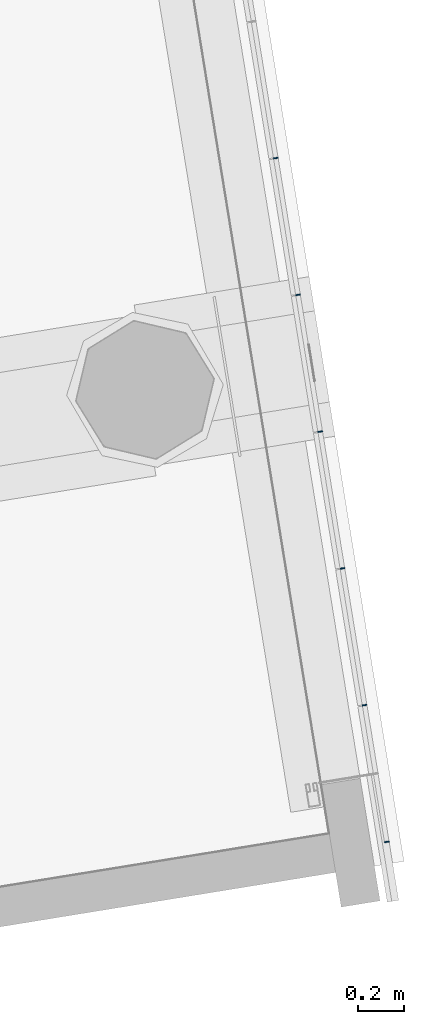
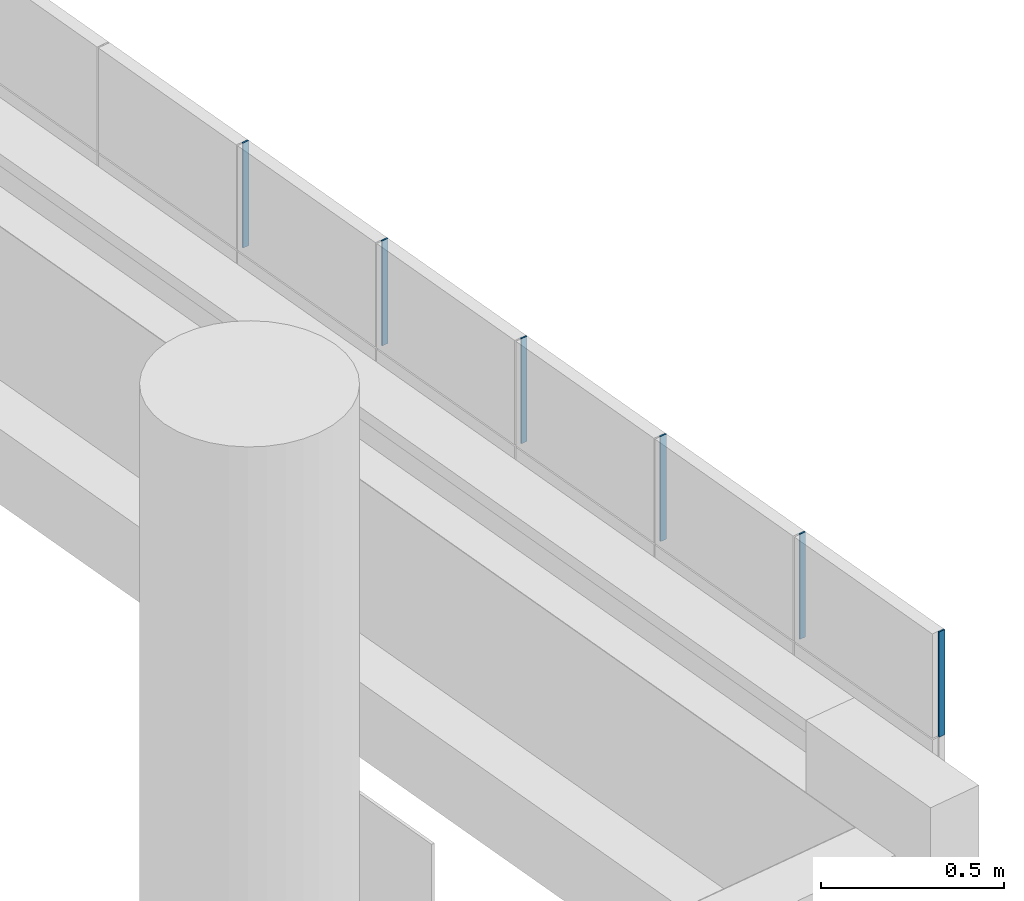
# One storey, part 22 of 38: 6 members, 1 element without a shape of its own.
"""IFC2X3 building model written with IfcOpenShell, lengths in millimetres."""

from ifc_helpers import new_model, entity, si_unit, converted_unit, derived_unit, direction, frame, origin, origin_with_axes, place, context, subcontext, project, spatial, faceted_brep, material, type_object, element, aggregate, save


model = new_model("IFC2X3")

# Units and contexts
model_context = context("Model", 3, precision=0.01, world=origin(), true_north=direction((6.12323399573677e-17, 1.0)))
plan_context = context("Plan", 3, precision=1e-05, world=origin_with_axes())
body_context = subcontext(model_context, "Body", "Model", "MODEL_VIEW")
ifc_project = project(units=[converted_unit("PLANEANGLEUNIT", "DEGREE", entity("IfcPositiveLengthMeasure", 0.0174532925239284), si_unit("PLANEANGLEUNIT", "RADIAN"), dimensions=[0, 0, 0, 0, 0, 0, 0]), si_unit("AREAUNIT", "SQUARE_METRE"), si_unit("LENGTHUNIT", "METRE", prefix="MILLI"), si_unit("MASSUNIT", "GRAM", prefix="KILO"), si_unit("POWERUNIT", "WATT"), si_unit("PRESSUREUNIT", "PASCAL", prefix="KILO"), si_unit("FORCEUNIT", "NEWTON", prefix="KILO"), si_unit("ELECTRICVOLTAGEUNIT", "VOLT"), si_unit("ELECTRICCURRENTUNIT", "AMPERE"), si_unit("THERMODYNAMICTEMPERATUREUNIT", "DEGREE_CELSIUS"), si_unit("TIMEUNIT", "SECOND"), si_unit("VOLUMEUNIT", "CUBIC_METRE"), derived_unit("LINEARVELOCITYUNIT", [(si_unit("LENGTHUNIT", "METRE"), 1), (si_unit("TIMEUNIT", "SECOND"), -1)]), derived_unit("VOLUMETRICFLOWRATEUNIT", [(si_unit("VOLUMEUNIT", "CUBIC_METRE"), 1), (si_unit("TIMEUNIT", "SECOND"), -1)]), derived_unit("THERMALTRANSMITTANCEUNIT", [(si_unit("POWERUNIT", "WATT"), 1), (si_unit("THERMODYNAMICTEMPERATUREUNIT", "KELVIN"), -1), (si_unit("AREAUNIT", "SQUARE_METRE"), -1)]), derived_unit("SOUNDPRESSUREUNIT", [(si_unit("PRESSUREUNIT", "PASCAL"), 1)])], contexts=[model_context, plan_context])

# Site, building, storey
site_placement = place(None, frame((-0.00071070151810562, 0.00438415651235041, 0.0), z_axis=(0.0, 0.0, 1.0), x_axis=(-0.160236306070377, 0.987078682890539, 0.0)))
site = spatial("IfcSite", under=ifc_project, at=site_placement, Name="Default", CompositionType="ELEMENT")
building_placement = place(site_placement, origin_with_axes())
building = spatial("IfcBuilding", under=site, at=building_placement, Name="TOO", CompositionType="ELEMENT")
storey_placement = place(building_placement, frame((0.0, 0.0, 50999.9999999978), z_axis=(0.0, 0.0, 1.0), x_axis=(1.0, 0.0, 0.0)))
storey = spatial("IfcBuildingStorey", under=building, at=storey_placement, Name="Nivå D-H01", CompositionType="ELEMENT", Elevation=50999.9999999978)

# Curtain wall, members
curtain_wall_type = type_object("IfcCurtainWallType", Name="Curtain Wall:Curtain Wall Standard (Bruk kun denne)", PredefinedType="NOTDEFINED")
curtain_wall_placement = place(storey_placement, frame((0.0, 0.0, -50999.9999999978), z_axis=(0.0, 0.0, 1.0), x_axis=(1.0, 0.0, 0.0)))
curtain_wall = element("IfcCurtainWall", 1, at=curtain_wall_placement, inside=storey, type_object=curtain_wall_type, Name="Curtain Wall:Curtain Wall Standard (Bruk kun denne)", ObjectType="Curtain Wall:Curtain Wall Standard (Bruk kun denne)")
ifc_material = material(Name="Rubber")
member_type = type_object("IfcMemberType", Name="Rectangular Mullion:A246 - Fuge 5mm L09", PredefinedType="MULLION", material=ifc_material)
member_1_placement = place(curtain_wall_placement, frame((771777.619644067, -604232.480498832, 54850.0), z_axis=(0.0, 0.0, -1.0), x_axis=(-1.0, 0.0, 0.0)))
member_1 = element("IfcMember", 2, at=member_1_placement, type_object=member_type, Name="Rectangular Mullion:A246 - Fuge 5mm L09", ObjectType="Rectangular Mullion:A246 - Fuge 5mm L09", context=body_context, shape_type="Brep", body=[
    faceted_brep([(2.5, 20.0, -349.999999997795), (2.5, -1.77635683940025e-15, -349.999999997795), (2.5, -1.77635683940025e-15, 2.20916263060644e-09), (2.5, 20.0, 2.20916263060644e-09), (-2.5, 20.0, -349.999999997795), (-2.5, 20.0, 2.20916263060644e-09), (-2.5, -1.77635683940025e-15, -349.999999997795), (-2.5, -1.77635683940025e-15, 2.20916263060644e-09)], [[[0, 1, 2, 3]], [[4, 0, 3, 5]], [[6, 4, 5, 7]], [[1, 6, 7, 2]], [[3, 2, 7, 5]], [[4, 6, 1, 0]]], orient=[[False], [False], [False], [False], [False], [False]]),
])
member_2_placement = place(curtain_wall_placement, frame((771177.619644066, -604232.480498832, 54850.0), z_axis=(0.0, 0.0, -1.0), x_axis=(-1.0, 0.0, 0.0)))
member_2 = element("IfcMember", 3, at=member_2_placement, type_object=member_type, Name="Rectangular Mullion:A246 - Fuge 5mm L09", ObjectType="Rectangular Mullion:A246 - Fuge 5mm L09", context=body_context, shape_type="Brep", body=[
    faceted_brep([(2.5, 20.0, -349.999999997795), (2.5, -1.77635683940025e-15, -349.999999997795), (2.5, -1.77635683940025e-15, 2.20916263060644e-09), (2.5, 20.0, 2.20916263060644e-09), (-2.5, 20.0, -349.999999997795), (-2.5, 20.0, 2.20916263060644e-09), (-2.5, -1.77635683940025e-15, -349.999999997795), (-2.5, -1.77635683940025e-15, 2.20916263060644e-09)], [[[0, 1, 2, 3]], [[4, 0, 3, 5]], [[6, 4, 5, 7]], [[1, 6, 7, 2]], [[3, 2, 7, 5]], [[4, 6, 1, 0]]], orient=[[False], [False], [False], [False], [False], [False]]),
])
member_3_placement = place(curtain_wall_placement, frame((769977.619644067, -604232.480498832, 54850.0), z_axis=(0.0, 0.0, -1.0), x_axis=(-1.0, 0.0, 0.0)))
member_3 = element("IfcMember", 4, at=member_3_placement, type_object=member_type, Name="Rectangular Mullion:A246 - Fuge 5mm L09", ObjectType="Rectangular Mullion:A246 - Fuge 5mm L09", context=body_context, shape_type="Brep", body=[
    faceted_brep([(2.5, 20.0, -349.999999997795), (2.5, -1.77635683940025e-15, -349.999999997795), (2.5, -1.77635683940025e-15, 2.20916263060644e-09), (2.5, 20.0, 2.20916263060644e-09), (-2.5, 20.0, -349.999999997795), (-2.5, 20.0, 2.20916263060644e-09), (-2.5, -1.77635683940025e-15, -349.999999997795), (-2.5, -1.77635683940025e-15, 2.20916263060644e-09)], [[[0, 1, 2, 3]], [[4, 0, 3, 5]], [[6, 4, 5, 7]], [[1, 6, 7, 2]], [[3, 2, 7, 5]], [[4, 6, 1, 0]]], orient=[[False], [False], [False], [False], [False], [False]]),
])
member_4_placement = place(curtain_wall_placement, frame((770577.619644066, -604232.480498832, 54850.0), z_axis=(0.0, 0.0, -1.0), x_axis=(-1.0, 0.0, 0.0)))
member_4 = element("IfcMember", 5, at=member_4_placement, type_object=member_type, Name="Rectangular Mullion:A246 - Fuge 5mm L09", ObjectType="Rectangular Mullion:A246 - Fuge 5mm L09", context=body_context, shape_type="Brep", body=[
    faceted_brep([(2.5, 20.0, -349.999999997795), (2.5, -1.77635683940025e-15, -349.999999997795), (2.5, -1.77635683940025e-15, 2.20916263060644e-09), (2.5, 20.0, 2.20916263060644e-09), (-2.5, 20.0, -349.999999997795), (-2.5, 20.0, 2.20916263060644e-09), (-2.5, -1.77635683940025e-15, -349.999999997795), (-2.5, -1.77635683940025e-15, 2.20916263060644e-09)], [[[0, 1, 2, 3]], [[4, 0, 3, 5]], [[6, 4, 5, 7]], [[1, 6, 7, 2]], [[3, 2, 7, 5]], [[4, 6, 1, 0]]], orient=[[False], [False], [False], [False], [False], [False]]),
])
member_5_placement = place(curtain_wall_placement, frame((769377.619644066, -604232.480498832, 54850.0), z_axis=(0.0, 0.0, -1.0), x_axis=(-1.0, 0.0, 0.0)))
member_5 = element("IfcMember", 6, at=member_5_placement, type_object=member_type, Name="Rectangular Mullion:A246 - Fuge 5mm L09", ObjectType="Rectangular Mullion:A246 - Fuge 5mm L09", context=body_context, shape_type="Brep", body=[
    faceted_brep([(2.5, 20.0, -349.999999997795), (2.5, -1.77635683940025e-15, -349.999999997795), (2.5, -1.77635683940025e-15, 2.20916263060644e-09), (2.5, 20.0, 2.20916263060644e-09), (-2.5, 20.0, -349.999999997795), (-2.5, 20.0, 2.20916263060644e-09), (-2.5, -1.77635683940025e-15, -349.999999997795), (-2.5, -1.77635683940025e-15, 2.20916263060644e-09)], [[[0, 1, 2, 3]], [[4, 0, 3, 5]], [[6, 4, 5, 7]], [[1, 6, 7, 2]], [[3, 2, 7, 5]], [[4, 6, 1, 0]]], orient=[[False], [False], [False], [False], [False], [False]]),
])
member_6_placement = place(curtain_wall_placement, frame((768777.619644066, -604232.480498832, 54850.0), z_axis=(0.0, 0.0, -1.0), x_axis=(-1.0, 0.0, 0.0)))
member_6 = element("IfcMember", 7, at=member_6_placement, type_object=member_type, Name="Rectangular Mullion:A246 - Fuge 5mm L09", ObjectType="Rectangular Mullion:A246 - Fuge 5mm L09", context=body_context, shape_type="Brep", body=[
    faceted_brep([(2.5, 20.0, -349.999999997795), (2.5, -1.77635683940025e-15, -349.999999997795), (2.5, -1.77635683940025e-15, 2.20916263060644e-09), (2.5, 20.0, 2.20916263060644e-09), (-2.5, 20.0, -349.999999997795), (-2.5, 20.0, 2.20916263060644e-09), (-2.5, -1.77635683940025e-15, -349.999999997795), (-2.5, -1.77635683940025e-15, 2.20916263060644e-09)], [[[0, 1, 2, 3]], [[4, 0, 3, 5]], [[6, 4, 5, 7]], [[1, 6, 7, 2]], [[3, 2, 7, 5]], [[4, 6, 1, 0]]], orient=[[False], [False], [False], [False], [False], [False]]),
])
aggregate(curtain_wall, [member_1, member_2, member_3, member_4, member_5, member_6])

save(model, "model.ifc")
